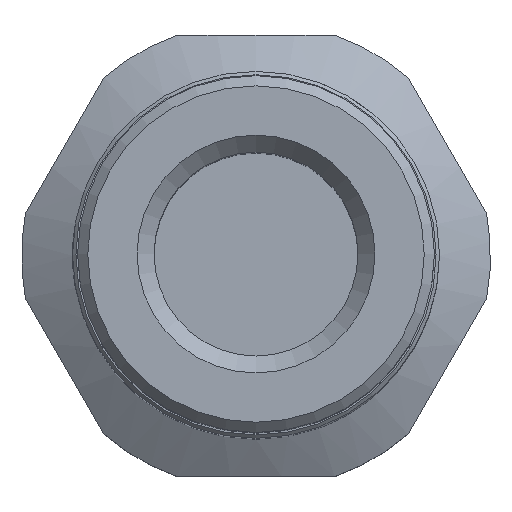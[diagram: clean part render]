
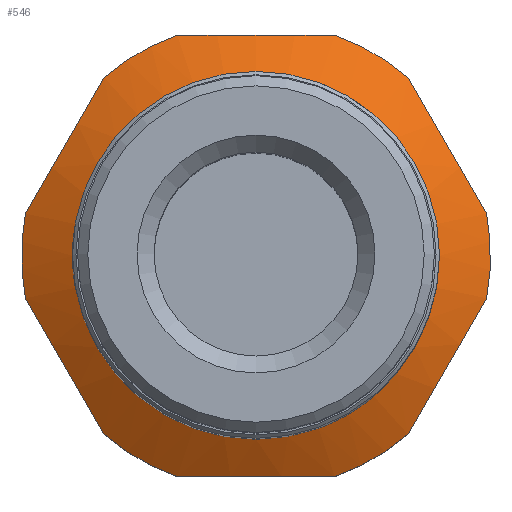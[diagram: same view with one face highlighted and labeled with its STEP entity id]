
A CAD part, top view. The second image highlights one B-rep face of the part: STEP entity #546.
In plain terms, the highlighted conical face has half-angle 60 degrees and reference radius 6.15 mm.
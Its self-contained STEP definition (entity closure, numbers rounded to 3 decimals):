
#42=(
BOUNDED_CURVE()
B_SPLINE_CURVE(2,(#876,#877,#878),.UNSPECIFIED.,.F.,.F.)
B_SPLINE_CURVE_WITH_KNOTS((3,3),(0.,0.465),.UNSPECIFIED.)
CURVE()
GEOMETRIC_REPRESENTATION_ITEM()
RATIONAL_B_SPLINE_CURVE((1.,1.062,1.))
REPRESENTATION_ITEM('')
);
#44=(
BOUNDED_CURVE()
B_SPLINE_CURVE(2,(#889,#890,#891),.UNSPECIFIED.,.F.,.F.)
B_SPLINE_CURVE_WITH_KNOTS((3,3),(0.,0.465),.UNSPECIFIED.)
CURVE()
GEOMETRIC_REPRESENTATION_ITEM()
RATIONAL_B_SPLINE_CURVE((1.,1.062,1.))
REPRESENTATION_ITEM('')
);
#46=(
BOUNDED_CURVE()
B_SPLINE_CURVE(2,(#902,#903,#904),.UNSPECIFIED.,.F.,.F.)
B_SPLINE_CURVE_WITH_KNOTS((3,3),(0.,0.465),.UNSPECIFIED.)
CURVE()
GEOMETRIC_REPRESENTATION_ITEM()
RATIONAL_B_SPLINE_CURVE((1.,1.062,1.))
REPRESENTATION_ITEM('')
);
#48=(
BOUNDED_CURVE()
B_SPLINE_CURVE(2,(#915,#916,#917),.UNSPECIFIED.,.F.,.F.)
B_SPLINE_CURVE_WITH_KNOTS((3,3),(0.,0.465),.UNSPECIFIED.)
CURVE()
GEOMETRIC_REPRESENTATION_ITEM()
RATIONAL_B_SPLINE_CURVE((1.,1.062,1.))
REPRESENTATION_ITEM('')
);
#49=(
BOUNDED_CURVE()
B_SPLINE_CURVE(2,(#922,#923,#924),.UNSPECIFIED.,.F.,.F.)
B_SPLINE_CURVE_WITH_KNOTS((3,3),(0.,0.465),.UNSPECIFIED.)
CURVE()
GEOMETRIC_REPRESENTATION_ITEM()
RATIONAL_B_SPLINE_CURVE((1.,1.062,1.))
REPRESENTATION_ITEM('')
);
#51=(
BOUNDED_CURVE()
B_SPLINE_CURVE(2,(#935,#936,#937),.UNSPECIFIED.,.F.,.F.)
B_SPLINE_CURVE_WITH_KNOTS((3,3),(0.,0.465),.UNSPECIFIED.)
CURVE()
GEOMETRIC_REPRESENTATION_ITEM()
RATIONAL_B_SPLINE_CURVE((1.,1.062,1.))
REPRESENTATION_ITEM('')
);
#76=CONICAL_SURFACE('',#621,6.15,60.);
#96=FACE_BOUND('',#196,.T.);
#139=FACE_OUTER_BOUND('',#195,.T.);
#195=EDGE_LOOP('',(#462,#463,#464,#465,#466,#467,#468,#469,#470,#471,#472,
#473));
#196=EDGE_LOOP('',(#474));
#237=CIRCLE('',#605,6.9);
#238=CIRCLE('',#607,6.9);
#240=CIRCLE('',#610,6.9);
#243=CIRCLE('',#614,6.9);
#244=CIRCLE('',#616,6.9);
#248=CIRCLE('',#622,6.9);
#249=CIRCLE('',#623,5.4);
#275=VERTEX_POINT('',#873);
#276=VERTEX_POINT('',#875);
#279=VERTEX_POINT('',#886);
#280=VERTEX_POINT('',#888);
#283=VERTEX_POINT('',#899);
#284=VERTEX_POINT('',#901);
#287=VERTEX_POINT('',#912);
#288=VERTEX_POINT('',#914);
#289=VERTEX_POINT('',#920);
#290=VERTEX_POINT('',#921);
#293=VERTEX_POINT('',#933);
#294=VERTEX_POINT('',#934);
#298=VERTEX_POINT('',#966);
#327=EDGE_CURVE('',#276,#275,#42,.T.);
#331=EDGE_CURVE('',#280,#279,#44,.T.);
#335=EDGE_CURVE('',#284,#283,#46,.T.);
#339=EDGE_CURVE('',#288,#287,#48,.T.);
#341=EDGE_CURVE('',#289,#290,#49,.T.);
#345=EDGE_CURVE('',#293,#294,#51,.T.);
#350=EDGE_CURVE('',#293,#290,#237,.T.);
#351=EDGE_CURVE('',#284,#294,#238,.T.);
#353=EDGE_CURVE('',#280,#287,#240,.T.);
#356=EDGE_CURVE('',#288,#283,#243,.T.);
#357=EDGE_CURVE('',#276,#279,#244,.T.);
#361=EDGE_CURVE('',#289,#275,#248,.T.);
#362=EDGE_CURVE('',#298,#298,#249,.T.);
#462=ORIENTED_EDGE('',*,*,#327,.T.);
#463=ORIENTED_EDGE('',*,*,#361,.F.);
#464=ORIENTED_EDGE('',*,*,#341,.T.);
#465=ORIENTED_EDGE('',*,*,#350,.F.);
#466=ORIENTED_EDGE('',*,*,#345,.T.);
#467=ORIENTED_EDGE('',*,*,#351,.F.);
#468=ORIENTED_EDGE('',*,*,#335,.T.);
#469=ORIENTED_EDGE('',*,*,#356,.F.);
#470=ORIENTED_EDGE('',*,*,#339,.T.);
#471=ORIENTED_EDGE('',*,*,#353,.F.);
#472=ORIENTED_EDGE('',*,*,#331,.T.);
#473=ORIENTED_EDGE('',*,*,#357,.F.);
#474=ORIENTED_EDGE('',*,*,#362,.T.);
#546=ADVANCED_FACE('',(#139,#96),#76,.T.);
#605=AXIS2_PLACEMENT_3D('',#947,#742,#743);
#607=AXIS2_PLACEMENT_3D('',#949,#746,#747);
#610=AXIS2_PLACEMENT_3D('',#952,#752,#753);
#614=AXIS2_PLACEMENT_3D('',#956,#760,#761);
#616=AXIS2_PLACEMENT_3D('',#958,#764,#765);
#621=AXIS2_PLACEMENT_3D('',#964,#774,#775);
#622=AXIS2_PLACEMENT_3D('',#965,#776,#777);
#623=AXIS2_PLACEMENT_3D('',#967,#778,#779);
#742=DIRECTION('center_axis',(0.,0.,-1.));
#743=DIRECTION('ref_axis',(1.,0.,0.));
#746=DIRECTION('center_axis',(0.,0.,-1.));
#747=DIRECTION('ref_axis',(1.,0.,0.));
#752=DIRECTION('center_axis',(0.,0.,-1.));
#753=DIRECTION('ref_axis',(1.,0.,0.));
#760=DIRECTION('center_axis',(0.,0.,-1.));
#761=DIRECTION('ref_axis',(1.,0.,0.));
#764=DIRECTION('center_axis',(0.,0.,-1.));
#765=DIRECTION('ref_axis',(1.,0.,0.));
#774=DIRECTION('center_axis',(0.,0.,-1.));
#775=DIRECTION('ref_axis',(0.,1.,0.));
#776=DIRECTION('center_axis',(0.,0.,-1.));
#777=DIRECTION('ref_axis',(1.,0.,0.));
#778=DIRECTION('center_axis',(0.,0.,-1.));
#779=DIRECTION('ref_axis',(1.,0.,0.));
#873=CARTESIAN_POINT('',(6.787,-1.245,-9.466));
#875=CARTESIAN_POINT('',(4.472,-5.255,-9.466));
#876=CARTESIAN_POINT('Ctrl Pts',(4.472,-5.255,-9.466));
#877=CARTESIAN_POINT('Ctrl Pts',(5.629,-3.25,-9.018));
#878=CARTESIAN_POINT('Ctrl Pts',(6.787,-1.245,-9.466));
#886=CARTESIAN_POINT('',(2.315,-6.5,-9.466));
#888=CARTESIAN_POINT('',(-2.315,-6.5,-9.466));
#889=CARTESIAN_POINT('Ctrl Pts',(-2.315,-6.5,-9.466));
#890=CARTESIAN_POINT('Ctrl Pts',(0.,-6.5,-9.018));
#891=CARTESIAN_POINT('Ctrl Pts',(2.315,-6.5,-9.466));
#899=CARTESIAN_POINT('',(-6.787,1.245,-9.466));
#901=CARTESIAN_POINT('',(-4.472,5.255,-9.466));
#902=CARTESIAN_POINT('Ctrl Pts',(-4.472,5.255,-9.466));
#903=CARTESIAN_POINT('Ctrl Pts',(-5.629,3.25,-9.018));
#904=CARTESIAN_POINT('Ctrl Pts',(-6.787,1.245,-9.466));
#912=CARTESIAN_POINT('',(-4.472,-5.255,-9.466));
#914=CARTESIAN_POINT('',(-6.787,-1.245,-9.466));
#915=CARTESIAN_POINT('Ctrl Pts',(-6.787,-1.245,-9.466));
#916=CARTESIAN_POINT('Ctrl Pts',(-5.629,-3.25,-9.018));
#917=CARTESIAN_POINT('Ctrl Pts',(-4.472,-5.255,-9.466));
#920=CARTESIAN_POINT('',(6.787,1.245,-9.466));
#921=CARTESIAN_POINT('',(4.472,5.255,-9.466));
#922=CARTESIAN_POINT('Ctrl Pts',(6.787,1.245,-9.466));
#923=CARTESIAN_POINT('Ctrl Pts',(5.629,3.25,-9.018));
#924=CARTESIAN_POINT('Ctrl Pts',(4.472,5.255,-9.466));
#933=CARTESIAN_POINT('',(2.315,6.5,-9.466));
#934=CARTESIAN_POINT('',(-2.315,6.5,-9.466));
#935=CARTESIAN_POINT('Ctrl Pts',(2.315,6.5,-9.466));
#936=CARTESIAN_POINT('Ctrl Pts',(0.,6.5,-9.018));
#937=CARTESIAN_POINT('Ctrl Pts',(-2.315,6.5,-9.466));
#947=CARTESIAN_POINT('Origin',(0.,0.,-9.466));
#949=CARTESIAN_POINT('Origin',(0.,0.,-9.466));
#952=CARTESIAN_POINT('Origin',(0.,0.,-9.466));
#956=CARTESIAN_POINT('Origin',(0.,0.,-9.466));
#958=CARTESIAN_POINT('Origin',(0.,0.,-9.466));
#964=CARTESIAN_POINT('Origin',(0.,0.,-9.033));
#965=CARTESIAN_POINT('Origin',(0.,0.,-9.466));
#966=CARTESIAN_POINT('',(0.,5.4,-8.6));
#967=CARTESIAN_POINT('Origin',(0.,0.,-8.6));
